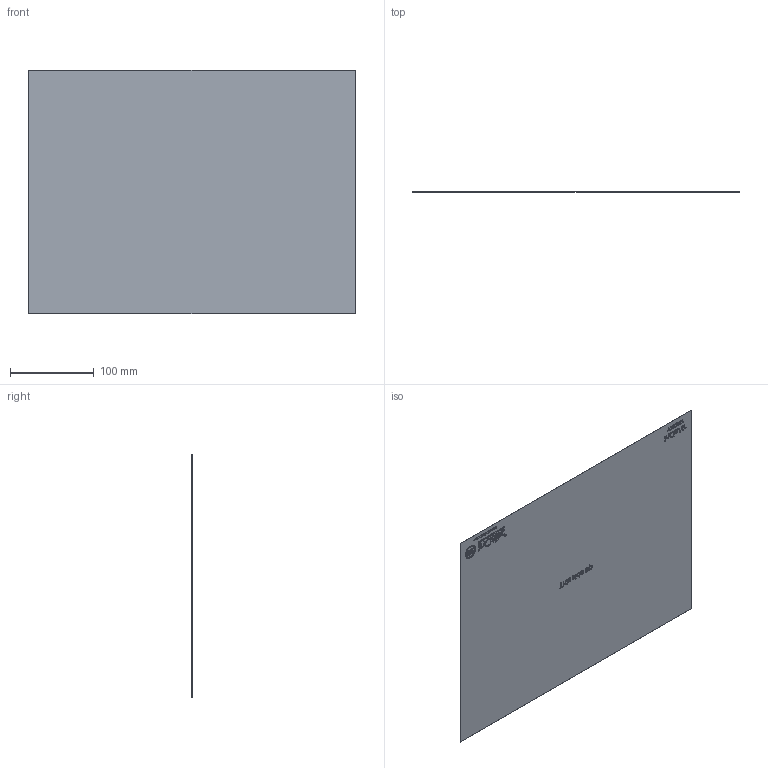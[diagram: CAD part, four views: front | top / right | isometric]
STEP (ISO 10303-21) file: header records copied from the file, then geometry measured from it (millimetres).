
FILE_DESCRIPTION (( 'STEP AP203' ), '1' );
FILE_NAME ('VT00387.STEP', '2018-03-13T09:58:45', ( '' ), ( '' ), 'SwSTEP 2.0', 'SolidWorks 2017', '' );
FILE_SCHEMA (( 'CONFIG_CONTROL_DESIGN' ));
Products named in the file (1): VT00387
Bounding box: 390 x 0.3 x 290 mm (x, y, z)
Volume: 33923.6 mm3; surface area: 226623.5 mm2
Topology: 1 solids, 1 shells, 1109 faces, 2973 edges, 1982 vertices
Faces by surface type: bspline 616, plane 493
Entity records: 52320 total; most frequent: CARTESIAN_POINT 28733, ORIENTED_EDGE 5946, EDGE_CURVE 2973, DIRECTION 2729, VERTEX_POINT 1982, LINE 1741, VECTOR 1741, B_SPLINE_CURVE_WITH_KNOTS 1232
